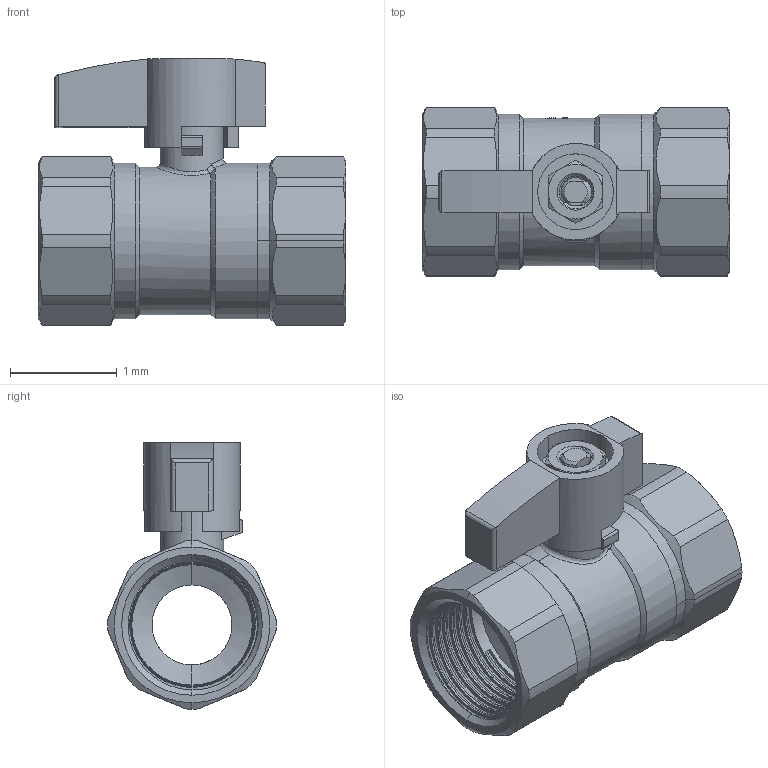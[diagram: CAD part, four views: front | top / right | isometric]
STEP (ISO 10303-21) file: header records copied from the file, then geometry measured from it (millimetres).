
FILE_DESCRIPTION(('Open CASCADE Model'),'2;1');
FILE_NAME('Open CASCADE Shape Model','2022-08-04T07:33:43',('Author'),( 'Open CASCADE'),'Open CASCADE STEP processor 7.3','Open CASCADE 7.3' ,'Unknown');
FILE_SCHEMA(('AUTOMOTIVE_DESIGN { 1 0 10303 214 1 1 1 1 }'));
Length unit declared in the file: millimetre
Products named in the file (11): Open CASCADE STEP translator 7.3 1; Open CASCADE STEP translator 7.3 1.1; Open CASCADE STEP translator 7.3 1.2; Open CASCADE STEP translator 7.3 1.3; Open CASCADE STEP translator 7.3 1.4; Open CASCADE STEP translator 7.3 1.5; Open CASCADE STEP translator 7.3 1.6; Open CASCADE STEP translator 7.3 1.7; Open CASCADE STEP translator 7.3 1.8; Open CASCADE STEP translator 7.3 1.9; Open CASCADE STEP translator 7.3 1.10
Assembly tree (10 placements, depth 2):
  Open CASCADE STEP translator 7.3 1
    Open CASCADE STEP translator 7.3 1.1
    Open CASCADE STEP translator 7.3 1.2
    Open CASCADE STEP translator 7.3 1.3
    Open CASCADE STEP translator 7.3 1.4
    Open CASCADE STEP translator 7.3 1.5
    Open CASCADE STEP translator 7.3 1.6
    Open CASCADE STEP translator 7.3 1.7
    Open CASCADE STEP translator 7.3 1.8
    Open CASCADE STEP translator 7.3 1.9
    Open CASCADE STEP translator 7.3 1.10
Bounding box: 2.88 x 1.58 x 2.49 mm (x, y, z)
Volume: 3.1 mm3; surface area: 56.1 mm2
Topology: 10 solids, 10 shells, 464 faces, 1210 edges, 779 vertices
Faces by surface type: cylinder 153, plane 113, cone 108, bspline 66, torus 14, sphere 6, revolution 4
Entity records: 89223 total; most frequent: CARTESIAN_POINT 67600, DIRECTION 3237, ORIENTED_EDGE 2420, PCURVE 2420, DEFINITIONAL_REPRESENTATION 2420, LINE 1617, VECTOR 1617, B_SPLINE_CURVE_WITH_KNOTS 1331
